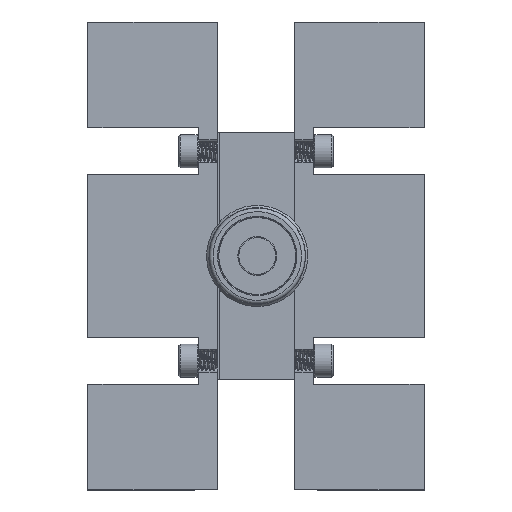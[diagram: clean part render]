
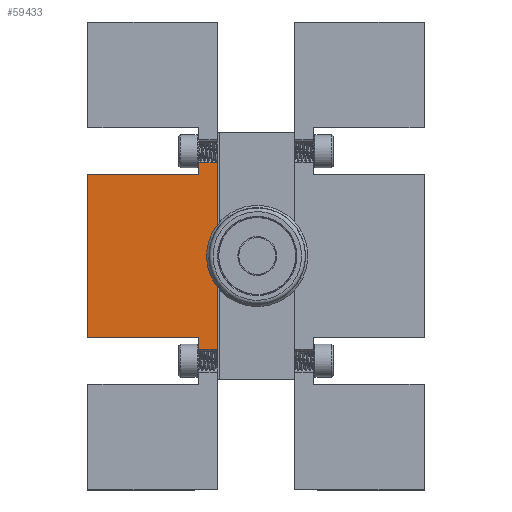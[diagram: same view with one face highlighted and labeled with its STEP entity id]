
A CAD part, left-side view. The second image highlights one B-rep face of the part: STEP entity #59433.
In plain terms, the highlighted planar face has unit normal (-1, 0, 0).
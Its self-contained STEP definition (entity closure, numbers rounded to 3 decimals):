
#15563=ORIENTED_EDGE('',*,*,#23622,.F.);
#15564=ORIENTED_EDGE('',*,*,#23623,.F.);
#15565=ORIENTED_EDGE('',*,*,#23624,.T.);
#15566=ORIENTED_EDGE('',*,*,#23601,.F.);
#15567=ORIENTED_EDGE('',*,*,#22326,.F.);
#15568=ORIENTED_EDGE('',*,*,#22325,.F.);
#15569=ORIENTED_EDGE('',*,*,#22322,.F.);
#15570=ORIENTED_EDGE('',*,*,#23617,.F.);
#22322=EDGE_CURVE('',#27491,#27492,#31105,.T.);
#22325=EDGE_CURVE('',#27492,#27493,#31108,.T.);
#22326=EDGE_CURVE('',#27493,#27494,#31109,.T.);
#23601=EDGE_CURVE('',#27494,#28350,#31961,.T.);
#23617=EDGE_CURVE('',#28363,#27491,#31972,.T.);
#23622=EDGE_CURVE('',#28366,#28363,#31977,.T.);
#23623=EDGE_CURVE('',#28367,#28366,#31978,.T.);
#23624=EDGE_CURVE('',#28367,#28350,#31979,.T.);
#27491=VERTEX_POINT('',#94525);
#27492=VERTEX_POINT('',#94527);
#27493=VERTEX_POINT('',#94531);
#27494=VERTEX_POINT('',#94535);
#28350=VERTEX_POINT('',#97093);
#28363=VERTEX_POINT('',#97124);
#28366=VERTEX_POINT('',#97135);
#28367=VERTEX_POINT('',#97137);
#31105=LINE('',#94526,#34205);
#31108=LINE('',#94532,#34208);
#31109=LINE('',#94534,#34209);
#31961=LINE('',#97092,#35061);
#31972=LINE('',#97125,#35072);
#31977=LINE('',#97134,#35077);
#31978=LINE('',#97136,#35078);
#31979=LINE('',#97138,#35079);
#34205=VECTOR('',#70972,1000.);
#34208=VECTOR('',#70977,1000.);
#34209=VECTOR('',#70980,1000.);
#35061=VECTOR('',#73532,1000.);
#35072=VECTOR('',#73559,1000.);
#35077=VECTOR('',#73568,1000.);
#35078=VECTOR('',#73569,1000.);
#35079=VECTOR('',#73570,1000.);
#37334=EDGE_LOOP('',(#15563,#15564,#15565,#15566,#15567,#15568,#15569,#15570));
#39903=FACE_BOUND('',#37334,.T.);
#41216=PLANE('',#63248);
#59433=ADVANCED_FACE('',(#39903),#41216,.T.);
#63248=AXIS2_PLACEMENT_3D('',#97133,#73566,#73567);
#70972=DIRECTION('',(0.,1.,0.));
#70977=DIRECTION('',(0.,0.,1.));
#70980=DIRECTION('',(0.,-1.,0.));
#73532=DIRECTION('',(0.,0.,1.));
#73559=DIRECTION('',(0.,0.,1.));
#73566=DIRECTION('',(-1.,0.,0.));
#73567=DIRECTION('',(0.,0.,1.));
#73568=DIRECTION('',(0.,1.,0.));
#73569=DIRECTION('',(0.,0.,-1.));
#73570=DIRECTION('',(0.,1.,0.));
#94525=CARTESIAN_POINT('',(-58.674,19.812,-16.764));
#94526=CARTESIAN_POINT('',(-58.674,42.672,-16.764));
#94527=CARTESIAN_POINT('',(-58.674,42.672,-16.764));
#94531=CARTESIAN_POINT('',(-58.674,42.672,16.764));
#94532=CARTESIAN_POINT('',(-58.674,42.672,16.764));
#94534=CARTESIAN_POINT('',(-58.674,19.812,16.764));
#94535=CARTESIAN_POINT('',(-58.674,19.812,16.764));
#97092=CARTESIAN_POINT('',(-58.674,19.812,26.416));
#97093=CARTESIAN_POINT('',(-58.674,19.812,19.228));
#97124=CARTESIAN_POINT('',(-58.674,19.812,-19.228));
#97125=CARTESIAN_POINT('',(-58.674,19.812,-16.764));
#97133=CARTESIAN_POINT('',(-58.674,16.002,0.));
#97134=CARTESIAN_POINT('',(-58.674,16.002,-19.228));
#97135=CARTESIAN_POINT('',(-58.674,16.002,-19.228));
#97136=CARTESIAN_POINT('',(-58.674,16.002,48.26));
#97137=CARTESIAN_POINT('',(-58.674,16.002,19.228));
#97138=CARTESIAN_POINT('',(-58.674,16.002,19.228));
